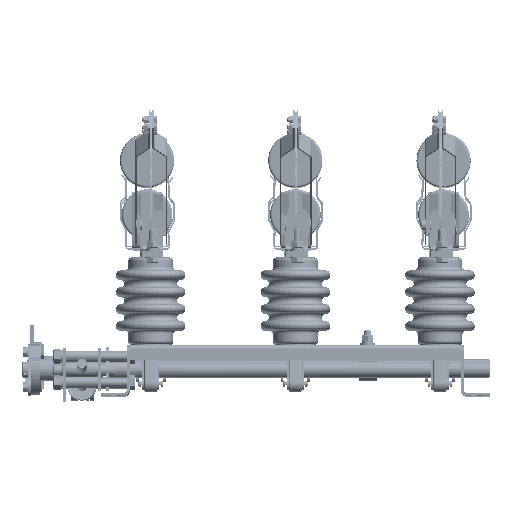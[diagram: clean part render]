
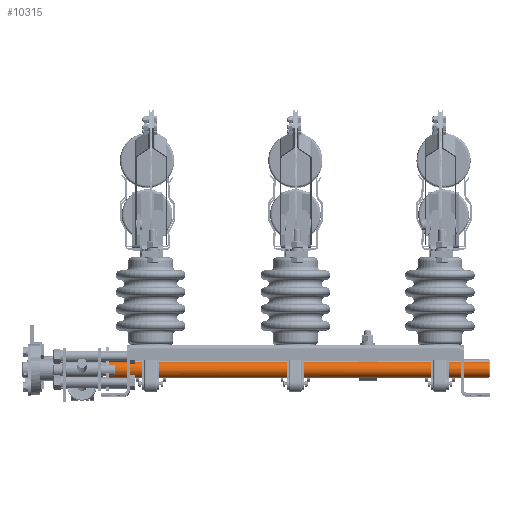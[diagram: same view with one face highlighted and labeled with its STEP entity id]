
A CAD part, top view. The second image highlights one B-rep face of the part: STEP entity #10315.
In plain terms, the highlighted cylindrical face has radius 11 mm (diameter 22 mm), a full revolution.
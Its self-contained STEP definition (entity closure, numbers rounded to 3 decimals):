
#65 = ORIENTED_EDGE ( 'NONE', *, *, #80060, .F. ) ;
#10315 = ADVANCED_FACE ( 'NONE', ( #58338, #13307 ), #183247, .T. ) ;
#13307 = FACE_OUTER_BOUND ( 'NONE', #62705, .T. ) ;
#21448 = AXIS2_PLACEMENT_3D ( 'NONE', #55938, #174763, #73058 ) ;
#24424 = VERTEX_POINT ( 'NONE', #56601 ) ;
#37881 = CIRCLE ( 'NONE', #21448, 11. ) ;
#39458 = EDGE_CURVE ( 'NONE', #187293, #187293, #37881, .T. ) ;
#40494 = CARTESIAN_POINT ( 'NONE',  ( -261.378, 36.004, 296.018 ) ) ;
#45310 = CARTESIAN_POINT ( 'NONE',  ( 267.622, 36.004, 296.018 ) ) ;
#53697 = EDGE_CURVE ( 'NONE', #24424, #76118, #192170, .T. ) ;
#55938 = CARTESIAN_POINT ( 'NONE',  ( -258.378, 36.004, 296.018 ) ) ;
#56601 = CARTESIAN_POINT ( 'NONE',  ( 267.622, 42.34, 287.026 ) ) ;
#58338 = FACE_OUTER_BOUND ( 'NONE', #104245, .T. ) ;
#62373 = DIRECTION ( 'NONE',  ( 0., 0.576, -0.817 ) ) ;
#62705 = EDGE_LOOP ( 'NONE', ( #65, #131474 ) ) ;
#69430 = CARTESIAN_POINT ( 'NONE',  ( 267.622, 36.004, 296.018 ) ) ;
#73058 = DIRECTION ( 'NONE',  ( 0., 0., 1. ) ) ;
#76118 = VERTEX_POINT ( 'NONE', #108706 ) ;
#80060 = EDGE_CURVE ( 'NONE', #76118, #24424, #129637, .T. ) ;
#80421 = ORIENTED_EDGE ( 'NONE', *, *, #39458, .F. ) ;
#86470 = DIRECTION ( 'NONE',  ( 0., -0.576, 0.817 ) ) ;
#90974 = DIRECTION ( 'NONE',  ( 0., 0.576, -0.817 ) ) ;
#104245 = EDGE_LOOP ( 'NONE', ( #80421 ) ) ;
#108706 = CARTESIAN_POINT ( 'NONE',  ( 267.622, 29.668, 305.01 ) ) ;
#123762 = CARTESIAN_POINT ( 'NONE',  ( -258.378, 36.004, 307.018 ) ) ;
#129637 = CIRCLE ( 'NONE', #214607, 11. ) ;
#131474 = ORIENTED_EDGE ( 'NONE', *, *, #53697, .F. ) ;
#159281 = DIRECTION ( 'NONE',  ( 1., 0., 0. ) ) ;
#164128 = DIRECTION ( 'NONE',  ( 1., 0., 0. ) ) ;
#172906 = AXIS2_PLACEMENT_3D ( 'NONE', #45310, #164128, #62373 ) ;
#174763 = DIRECTION ( 'NONE',  ( -1., 0., 0. ) ) ;
#183247 = CYLINDRICAL_SURFACE ( 'NONE', #214974, 11. ) ;
#187293 = VERTEX_POINT ( 'NONE', #123762 ) ;
#188226 = DIRECTION ( 'NONE',  ( 1., 0., 0. ) ) ;
#192170 = CIRCLE ( 'NONE', #172906, 11. ) ;
#214607 = AXIS2_PLACEMENT_3D ( 'NONE', #69430, #188226, #86470 ) ;
#214974 = AXIS2_PLACEMENT_3D ( 'NONE', #40494, #159281, #90974 ) ;
